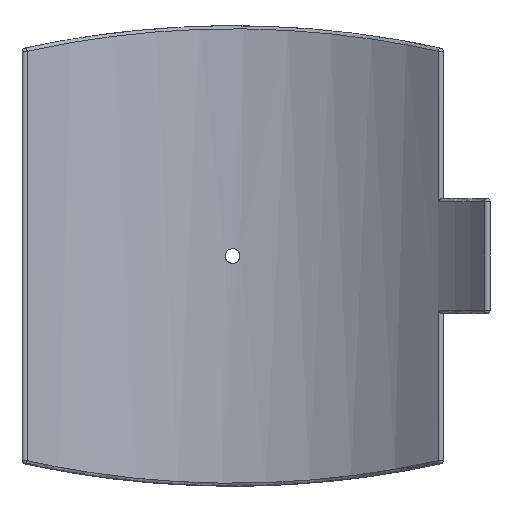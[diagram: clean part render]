
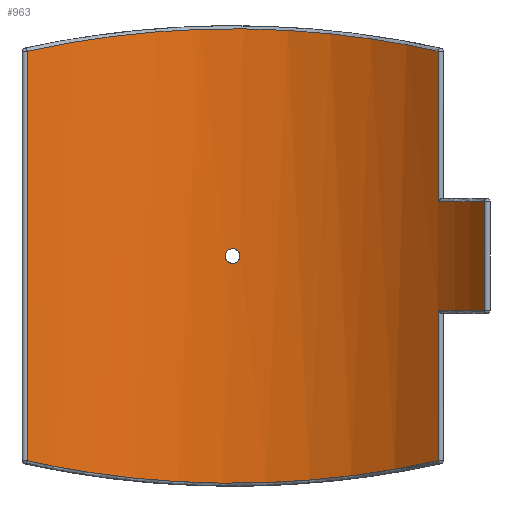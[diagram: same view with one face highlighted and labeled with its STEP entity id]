
A CAD part, front view. The second image highlights one B-rep face of the part: STEP entity #963.
In plain terms, the highlighted cylindrical face has radius 202.3 mm (diameter 404.6 mm), a partial arc.
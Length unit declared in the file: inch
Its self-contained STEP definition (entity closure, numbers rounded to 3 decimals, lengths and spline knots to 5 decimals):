
#45=B_SPLINE_CURVE_WITH_KNOTS('',3,(#1800,#1801,#1802,#1803,#1804,#1805,
#1806,#1807,#1808,#1809,#1810,#1811,#1812,#1813,#1814,#1815,#1816,#1817,
#1818,#1819,#1820,#1821,#1822,#1823,#1824,#1825,#1826,#1827,#1828,#1829,
#1830,#1831,#1832,#1833),.UNSPECIFIED.,.T.,.F.,(4,2,2,2,2,2,2,2,2,2,2,2,
2,2,2,2,4),(0.,0.18082,0.36163,0.54245,0.72327,
0.90408,1.0849,1.26572,1.44654,1.62735,
1.80817,1.98899,2.1698,2.35062,2.53144,
2.71225,2.89307),.UNSPECIFIED.);
#51=B_SPLINE_CURVE_WITH_KNOTS('',3,(#2193,#2194,#2195,#2196,#2197,#2198,
#2199,#2200,#2201,#2202),.UNSPECIFIED.,.F.,.F.,(4,1,1,1,1,1,1,4),(-35.25617,
-31.01186,-26.76756,-22.52325,-18.27895,
-14.03464,-9.79034,-5.54603),.UNSPECIFIED.);
#57=B_SPLINE_CURVE_WITH_KNOTS('',3,(#2347,#2348,#2349,#2350,#2351,#2352,
#2353,#2354,#2355,#2356),.UNSPECIFIED.,.F.,.F.,(4,1,1,1,1,1,1,4),(-33.31318,
-29.06887,-24.82457,-20.58026,-16.33596,
-12.09165,-7.84735,-3.60304),.UNSPECIFIED.);
#78=LINE('',#2122,#118);
#82=LINE('',#2217,#122);
#89=LINE('',#2254,#129);
#94=LINE('',#2377,#134);
#118=VECTOR('',#1327,0.3937);
#122=VECTOR('',#1343,0.3937);
#129=VECTOR('',#1366,0.3937);
#134=VECTOR('',#1391,0.3937);
#166=CYLINDRICAL_SURFACE('',#1114,7.96457);
#177=FACE_BOUND('',#332,.T.);
#255=FACE_OUTER_BOUND('',#331,.T.);
#331=EDGE_LOOP('',(#875,#876,#877,#878,#879,#880,#881,#882));
#332=EDGE_LOOP('',(#883));
#398=CIRCLE('',#1089,7.96457);
#401=CIRCLE('',#1097,7.96457);
#433=VERTEX_POINT('',#1798);
#451=VERTEX_POINT('',#1935);
#456=VERTEX_POINT('',#2011);
#465=VERTEX_POINT('',#2037);
#466=VERTEX_POINT('',#2041);
#471=VERTEX_POINT('',#2114);
#476=VERTEX_POINT('',#2130);
#478=VERTEX_POINT('',#2216);
#482=VERTEX_POINT('',#2258);
#520=EDGE_CURVE('',#433,#433,#45,.T.);
#580=EDGE_CURVE('',#471,#465,#78,.T.);
#586=EDGE_CURVE('',#466,#476,#51,.T.);
#589=EDGE_CURVE('',#476,#478,#82,.T.);
#592=EDGE_CURVE('',#478,#471,#398,.T.);
#601=EDGE_CURVE('',#456,#466,#89,.T.);
#603=EDGE_CURVE('',#465,#482,#401,.T.);
#611=EDGE_CURVE('',#451,#456,#57,.T.);
#615=EDGE_CURVE('',#482,#451,#94,.T.);
#875=ORIENTED_EDGE('',*,*,#586,.F.);
#876=ORIENTED_EDGE('',*,*,#601,.F.);
#877=ORIENTED_EDGE('',*,*,#611,.F.);
#878=ORIENTED_EDGE('',*,*,#615,.F.);
#879=ORIENTED_EDGE('',*,*,#603,.F.);
#880=ORIENTED_EDGE('',*,*,#580,.F.);
#881=ORIENTED_EDGE('',*,*,#592,.F.);
#882=ORIENTED_EDGE('',*,*,#589,.F.);
#883=ORIENTED_EDGE('',*,*,#520,.T.);
#963=ADVANCED_FACE('',(#255,#177),#166,.F.);
#1089=AXIS2_PLACEMENT_3D('',#2233,#1348,#1349);
#1097=AXIS2_PLACEMENT_3D('',#2259,#1371,#1372);
#1114=AXIS2_PLACEMENT_3D('',#2393,#1415,#1416);
#1327=DIRECTION('',(0.,0.,-1.));
#1343=DIRECTION('',(0.,0.,-1.));
#1348=DIRECTION('center_axis',(0.,0.,-1.));
#1349=DIRECTION('ref_axis',(0.758,0.652,0.));
#1366=DIRECTION('',(0.,0.,1.));
#1371=DIRECTION('center_axis',(0.,0.,1.));
#1372=DIRECTION('ref_axis',(0.758,0.652,0.));
#1391=DIRECTION('',(0.,0.,-1.));
#1415=DIRECTION('center_axis',(0.,0.,1.));
#1416=DIRECTION('ref_axis',(-1.,0.,0.));
#1798=CARTESIAN_POINT('',(0.18898,7.96232,0.));
#1800=CARTESIAN_POINT('Ctrl Pts',(0.18898,7.96232,0.));
#1801=CARTESIAN_POINT('Ctrl Pts',(0.18898,7.96232,-0.02373));
#1802=CARTESIAN_POINT('Ctrl Pts',(0.18423,7.96244,-0.04904));
#1803=CARTESIAN_POINT('Ctrl Pts',(0.16495,7.96286,-0.0956));
#1804=CARTESIAN_POINT('Ctrl Pts',(0.1504,7.96316,-0.11685));
#1805=CARTESIAN_POINT('Ctrl Pts',(0.11685,7.96373,-0.1504));
#1806=CARTESIAN_POINT('Ctrl Pts',(0.0956,7.96403,-0.16495));
#1807=CARTESIAN_POINT('Ctrl Pts',(0.04904,7.96445,-0.18423));
#1808=CARTESIAN_POINT('Ctrl Pts',(0.02373,7.96457,-0.18898));
#1809=CARTESIAN_POINT('Ctrl Pts',(-0.02373,7.96457,
-0.18898));
#1810=CARTESIAN_POINT('Ctrl Pts',(-0.04904,7.96445,
-0.18423));
#1811=CARTESIAN_POINT('Ctrl Pts',(-0.0956,7.96403,
-0.16495));
#1812=CARTESIAN_POINT('Ctrl Pts',(-0.11685,7.96373,-0.1504));
#1813=CARTESIAN_POINT('Ctrl Pts',(-0.1504,7.96316,-0.11685));
#1814=CARTESIAN_POINT('Ctrl Pts',(-0.16495,7.96286,-0.0956));
#1815=CARTESIAN_POINT('Ctrl Pts',(-0.18423,7.96244,-0.04904));
#1816=CARTESIAN_POINT('Ctrl Pts',(-0.18898,7.96232,-0.02373));
#1817=CARTESIAN_POINT('Ctrl Pts',(-0.18898,7.96232,0.02373));
#1818=CARTESIAN_POINT('Ctrl Pts',(-0.18423,7.96244,0.04904));
#1819=CARTESIAN_POINT('Ctrl Pts',(-0.16495,7.96286,0.0956));
#1820=CARTESIAN_POINT('Ctrl Pts',(-0.1504,7.96316,0.11685));
#1821=CARTESIAN_POINT('Ctrl Pts',(-0.11685,7.96373,0.1504));
#1822=CARTESIAN_POINT('Ctrl Pts',(-0.0956,7.96403,
0.16495));
#1823=CARTESIAN_POINT('Ctrl Pts',(-0.04904,7.96445,
0.18423));
#1824=CARTESIAN_POINT('Ctrl Pts',(-0.02373,7.96457,
0.18898));
#1825=CARTESIAN_POINT('Ctrl Pts',(0.02373,7.96457,0.18898));
#1826=CARTESIAN_POINT('Ctrl Pts',(0.04904,7.96445,0.18423));
#1827=CARTESIAN_POINT('Ctrl Pts',(0.0956,7.96403,0.16495));
#1828=CARTESIAN_POINT('Ctrl Pts',(0.11685,7.96373,0.1504));
#1829=CARTESIAN_POINT('Ctrl Pts',(0.1504,7.96316,0.11685));
#1830=CARTESIAN_POINT('Ctrl Pts',(0.16495,7.96286,0.0956));
#1831=CARTESIAN_POINT('Ctrl Pts',(0.18423,7.96244,0.04904));
#1832=CARTESIAN_POINT('Ctrl Pts',(0.18898,7.96232,0.02373));
#1833=CARTESIAN_POINT('Ctrl Pts',(0.18898,7.96232,0.));
#1935=CARTESIAN_POINT('',(5.26768,5.97377,-5.25047));
#2011=CARTESIAN_POINT('',(-5.26768,5.97377,-5.25047));
#2037=CARTESIAN_POINT('',(6.4558,4.66444,-1.3966));
#2041=CARTESIAN_POINT('',(-5.26768,5.97377,5.25047));
#2114=CARTESIAN_POINT('',(6.4558,4.66444,1.3966));
#2122=CARTESIAN_POINT('',(6.4558,4.66444,0.));
#2130=CARTESIAN_POINT('',(5.26768,5.97377,5.25047));
#2193=CARTESIAN_POINT('Ctrl Pts',(-5.26768,5.97377,5.25047));
#2194=CARTESIAN_POINT('Ctrl Pts',(-4.85951,6.33369,5.34061));
#2195=CARTESIAN_POINT('Ctrl Pts',(-3.96838,6.97042,5.51529));
#2196=CARTESIAN_POINT('Ctrl Pts',(-2.45714,7.63604,5.71872));
#2197=CARTESIAN_POINT('Ctrl Pts',(-0.83218,7.9788,5.82994));
#2198=CARTESIAN_POINT('Ctrl Pts',(0.8322,7.97886,5.82999));
#2199=CARTESIAN_POINT('Ctrl Pts',(2.45713,7.63599,5.71867));
#2200=CARTESIAN_POINT('Ctrl Pts',(3.96837,6.97045,5.51532));
#2201=CARTESIAN_POINT('Ctrl Pts',(4.8595,6.3337,5.34062));
#2202=CARTESIAN_POINT('Ctrl Pts',(5.26768,5.97377,5.25047));
#2216=CARTESIAN_POINT('',(5.26768,5.97377,1.3966));
#2217=CARTESIAN_POINT('',(5.26768,5.97377,0.));
#2233=CARTESIAN_POINT('Origin',(0.,0.,1.3966));
#2254=CARTESIAN_POINT('',(-5.26768,5.97377,0.));
#2258=CARTESIAN_POINT('',(5.26768,5.97377,-1.3966));
#2259=CARTESIAN_POINT('Origin',(0.,0.,-1.3966));
#2347=CARTESIAN_POINT('Ctrl Pts',(5.26768,5.97377,-5.25047));
#2348=CARTESIAN_POINT('Ctrl Pts',(4.8595,6.3337,-5.34062));
#2349=CARTESIAN_POINT('Ctrl Pts',(3.96835,6.97043,-5.51529));
#2350=CARTESIAN_POINT('Ctrl Pts',(2.45715,7.63603,-5.71871));
#2351=CARTESIAN_POINT('Ctrl Pts',(0.83218,7.9788,-5.82994));
#2352=CARTESIAN_POINT('Ctrl Pts',(-0.8322,7.97885,-5.82999));
#2353=CARTESIAN_POINT('Ctrl Pts',(-2.45712,7.63599,-5.71867));
#2354=CARTESIAN_POINT('Ctrl Pts',(-3.96839,6.97044,-5.51531));
#2355=CARTESIAN_POINT('Ctrl Pts',(-4.85951,6.33369,-5.34061));
#2356=CARTESIAN_POINT('Ctrl Pts',(-5.26768,5.97377,-5.25047));
#2377=CARTESIAN_POINT('',(5.26768,5.97377,0.));
#2393=CARTESIAN_POINT('Origin',(0.,0.,0.));
